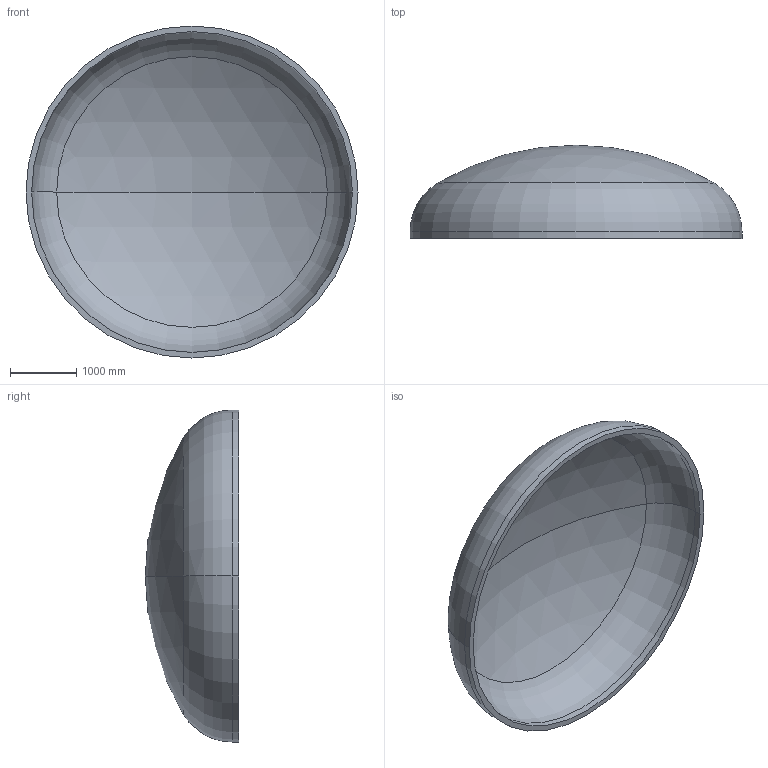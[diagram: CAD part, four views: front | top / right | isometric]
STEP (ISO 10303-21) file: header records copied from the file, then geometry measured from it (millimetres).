
FILE_DESCRIPTION (( 'STEP AP203' ), '1' );
FILE_NAME ('DIN 28013 Korbbogenform_-_Boden DIN 28013 - 5000 x 100 - I - s=84.step', '2016-07-02T00:49:10', ( '' ), ( '' ), 'SwSTEP 2.0', 'SolidWorks 2013', '' );
FILE_SCHEMA (( 'CONFIG_CONTROL_DESIGN' ));
Length unit declared in the file: millimetre
Products named in the file (1): DIN 28013 Korbbogenform_-_Boden DIN 28013 - 5000 x 100 - I - s=84
Bounding box: 5000 x 1404.87 x 5000 mm (x, y, z)
Volume: 2363965254.3 mm3; surface area: 57596946.2 mm2
Topology: 1 solids, 1 shells, 13 faces, 24 edges, 14 vertices
Faces by surface type: torus 4, cylinder 4, sphere 4, plane 1
Entity records: 407 total; most frequent: DIRECTION 72, CARTESIAN_POINT 52, ORIENTED_EDGE 48, AXIS2_PLACEMENT_3D 34, EDGE_CURVE 24, CIRCLE 20, EDGE_LOOP 14, VERTEX_POINT 14
